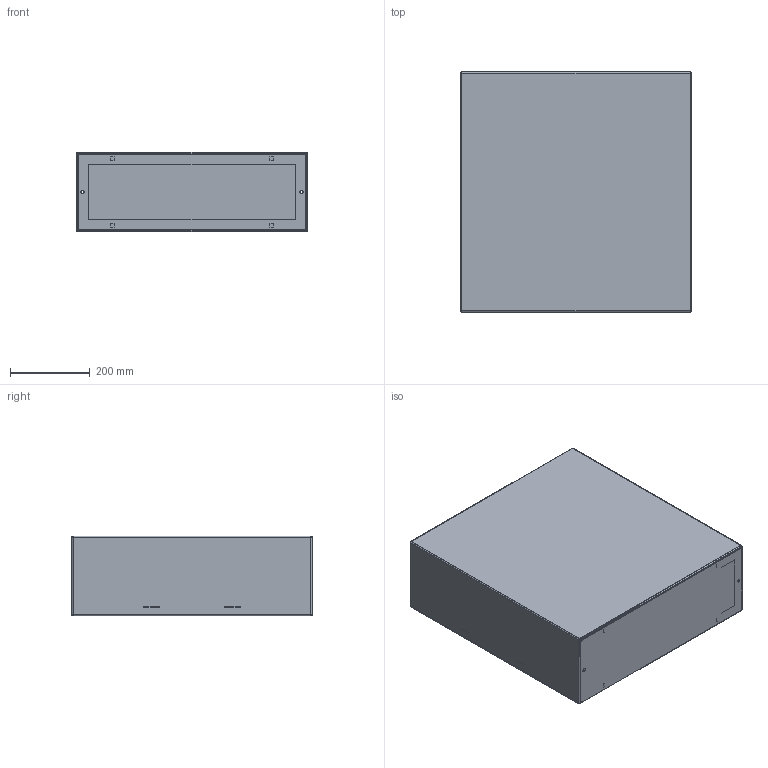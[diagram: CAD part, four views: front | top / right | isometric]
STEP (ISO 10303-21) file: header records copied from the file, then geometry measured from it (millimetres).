
FILE_DESCRIPTION (( 'STEP AP203' ), '1' );
FILE_NAME ('EUZE_0600X0600X0200 STA-ENUX.STEP', '2015-02-20T16:14:52', ( 'Admin' ), ( '' ), 'SwSTEP 2.0', 'SolidWorks 2014', '' );
FILE_SCHEMA (( 'CONFIG_CONTROL_DESIGN' ));
Length unit declared in the file: millimetre
Products named in the file (1): EUZE_0600X0600X0200 STA-ENUX
Bounding box: 578 x 605 x 200 mm (x, y, z)
Volume: 2246907.3 mm3; surface area: 2124060.5 mm2
Topology: 1 solids, 1 shells, 215 faces, 532 edges, 324 vertices
Faces by surface type: plane 127, cylinder 68, sphere 16, cone 4
Entity records: 6289 total; most frequent: DIRECTION 1074, CARTESIAN_POINT 1074, ORIENTED_EDGE 1032, EDGE_CURVE 516, VECTOR 378, LINE 378, AXIS2_PLACEMENT_3D 348, VERTEX_POINT 324
